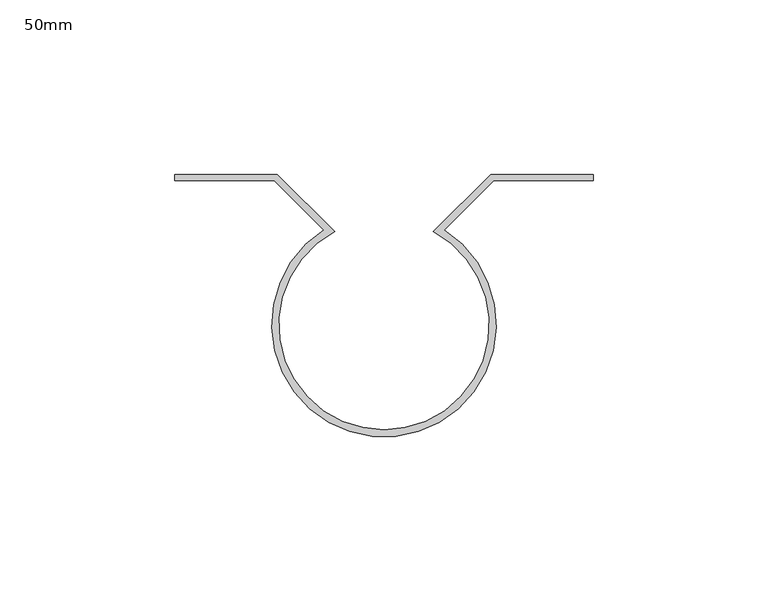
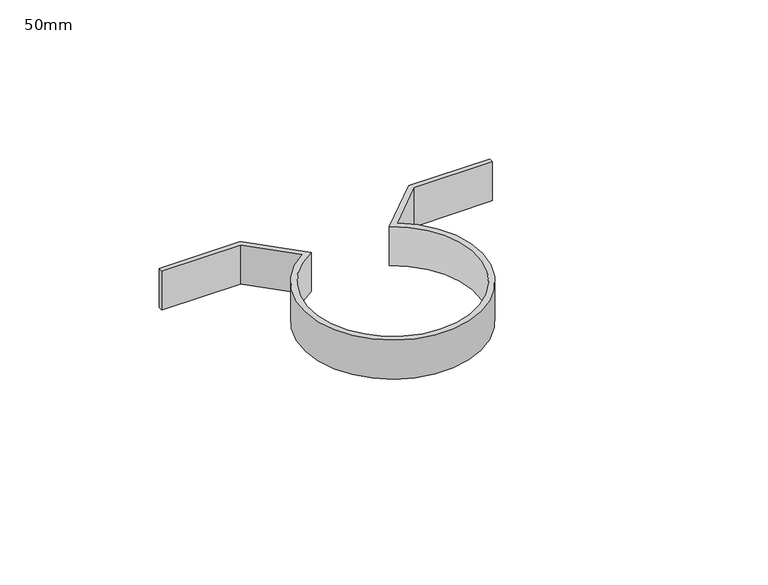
"""IFC4 building model written with IfcOpenShell, lengths in millimetres: pipe fitting geometry, AmancoWavin_Unionesdetubería_CanalesyBajantes_GazaBajanteRedondo : 50mm."""

from ifc_helpers import new_model, si_unit, point, origin, origin_with_axes, origin_2d, place, context, project, spatial, polyline, circle_curve, trimmed, segment, composite_curve, outline, extrude, source, transform, mapped, element, save


def pipe_fitting_50mm_7205c302(model_context):
    return source(origin(), model_context, "Body", "SweptSolid", [
        extrude(outline(composite_curve([segment(polyline([(-31.3989958, 41.2800496), (-60.0, 41.2800496), (-60.0, 43.0636456), (-30.5705687, 43.0636456), (-14.1444782, 26.637555)]), True, "CONTINUOUS"), segment(trimmed(circle_curve(origin_2d(), 30.16), [point((-14.1444782, 26.637555))], [point((14.1444782, 26.637555))], True, "CARTESIAN"), True, "CONTINUOUS"), segment(polyline([(14.1444782, 26.637555), (30.5705687, 43.0636456), (60.0, 43.0636456), (60.0, 41.2800496), (31.3989958, 41.2800496), (17.2568602, 27.137914)]), True, "CONTINUOUS"), segment(trimmed(circle_curve(origin_2d(), 32.16), [point((17.2568602, 27.137914))], [point((-17.2568602, 27.137914))], False, "CARTESIAN"), True, "CONTINUOUS"), segment(polyline([(-17.2568602, 27.137914), (-31.3989958, 41.2800496)]), True, "CONTINUOUS")], self_intersect=False)), origin_with_axes(), (0.0, 0.0, 1.0), 15.0),
    ])


if __name__ == "__main__":
    model = new_model("IFC4")
    model_context = context("Model", 3, world=origin())
    ifc_project = project(units=[si_unit("LENGTHUNIT", "METRE", prefix="MILLI")], contexts=[model_context])
    site = spatial("IfcSite", under=ifc_project)
    building = spatial("IfcBuilding", under=site)
    placement = place(None, origin())
    pipe_fitting_50mm_shape = pipe_fitting_50mm_7205c302(model_context)
    element("IfcPipeFitting", 1, ObjectType="AmancoWavin_Unionesdetubería_CanalesyBajantes_GazaBajanteRedondo : 50mm", at=placement, inside=building, context=model_context, shape_type="MappedRepresentation", body=[
        mapped(pipe_fitting_50mm_shape, transform((0.0, 0.0, 0.0), x_axis=(1.0, 0.0, 0.0), y_axis=(0.0, 1.0, 0.0), z_axis=(0.0, 0.0, 1.0))),
    ])
    save(model, "model.ifc")
